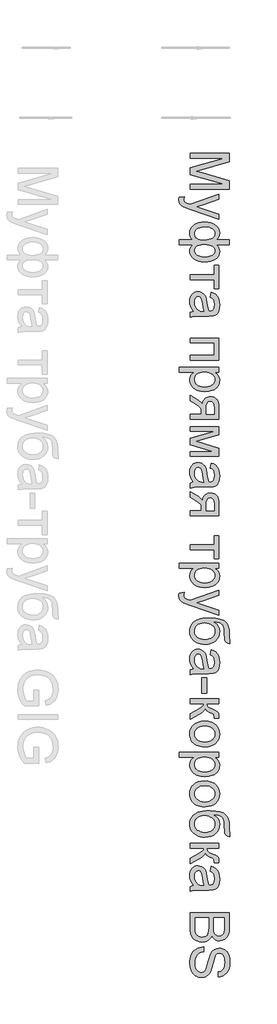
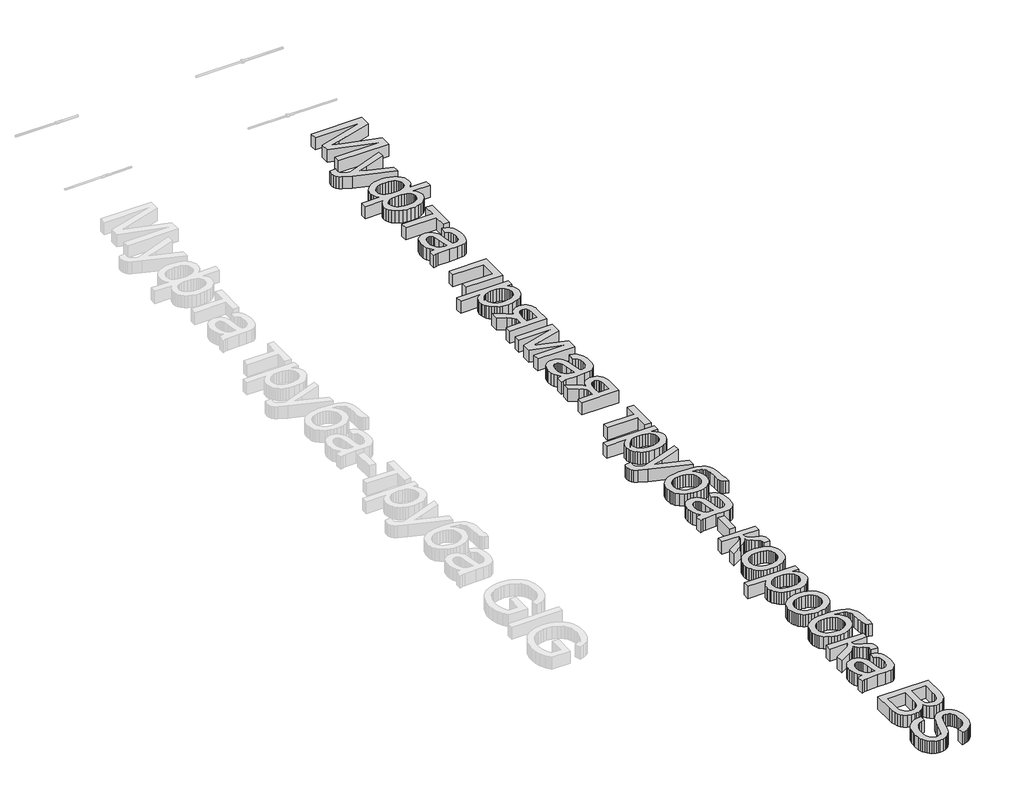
# One storey, part 13 of 33: 1 proxy.
"""IFC4 building model written with IfcOpenShell, lengths in millimetres."""

from ifc_helpers import new_model, si_unit, origin, origin_with_axes, place, context, project, spatial, polyline, outline, extrude, element, save

model = new_model("IFC4")

# Units and contexts
model_context = context("Model", 3, world=origin())
ifc_project = project(units=[si_unit("LENGTHUNIT", "METRE", prefix="MILLI")], contexts=[model_context])

# Site, building, storey
site = spatial("IfcSite", under=ifc_project)
building = spatial("IfcBuilding", under=site)
storey = spatial("IfcBuildingStorey", under=building, Name="Уровень 1", Elevation=0.0)

# Proxy
placement = place(None, origin())
element("IfcBuildingElementProxy", 1, Name="Надпись на модели 1", ObjectType="Надпись на модели 1", at=placement, inside=storey, context=model_context, shape_type="SweptSolid", body=[
    extrude(outline(polyline([(7824.4625724, -566.9517531), (8415.2318032, -566.9517531), (8415.2318032, -694.0190607), (7998.8375724, -814.8844454), (7911.8664186, -839.2594454), (8006.0491109, -865.6536761), (8415.2318032, -984.49983), (8415.2318032, -1111.5671377), (7824.4625724, -1111.5671377), (7824.4625724, -1037.7209838), (8341.3856493, -1037.7209838), (7824.4625724, -889.3075223), (7824.4625724, -789.2113684), (8341.3856493, -640.7979069), (7824.4625724, -640.7979069), (7824.4625724, -566.9517531)])), origin_with_axes(), (0.0, 0.0, 1.0), 150.0),
    extrude(outline(polyline([(7658.3087262, -1231.5671377), (7729.4144955, -1222.3363684), (7722.9241109, -1259.8363684), (7724.9613705, -1279.5599261), (7731.0731493, -1294.8844454), (7740.8267551, -1306.8195415), (7753.7894955, -1316.37483), (7808.1644955, -1336.5671377), (7826.0491109, -1342.3363684), (8258.3087262, -1185.4132915), (8258.3087262, -1263.2979069), (8017.4433416, -1346.5190607), (7921.0971878, -1375.5094454), (8006.1933416, -1404.49983), (8258.3087262, -1490.0286761), (8258.3087262, -1567.3363684), (7814.077957, -1416.3267531), (7717.7318032, -1377.0959838), (7686.9745916, -1357.0118492), (7665.6644955, -1334.2594454), (7653.2245916, -1307.8291569), (7649.077957, -1276.7113684), (7651.3856493, -1255.3291569), (7658.3087262, -1231.5671377)])), origin_with_axes(), (0.0, 0.0, 1.0), 150.0),
    extrude(outline(polyline([(8415.2318032, -1877.7209838), (8415.2318032, -1951.5671377), (8216.6260339, -1951.5671377), (8239.0358897, -1973.9769934), (8254.9193032, -1998.5142531), (8264.3844474, -2025.0707434), (8267.5394955, -2053.5382915), (8263.5280772, -2087.725491), (8251.4938224, -2118.171705), (8231.4367311, -2144.8769333), (8203.3568032, -2167.8411761), (8169.1921397, -2186.2982074), (8130.8808416, -2199.4818011), (8088.4229089, -2207.3919574), (8041.8183416, -2210.0286761), (7993.4875123, -2207.1891329), (7950.0334859, -2198.6705031), (7911.4562623, -2184.4727867), (7877.7558416, -2164.5959838), (7850.4015748, -2140.5004309), (7830.8628128, -2113.6464646), (7819.1395556, -2084.0340848), (7815.2318032, -2051.6632915), (7817.0346878, -2029.2714646), (7822.4433416, -2006.5190607), (7835.8928609, -1981.3147338), (7861.8183416, -1951.5671377), (7658.3087262, -1951.5671377), (7658.3087262, -1877.7209838), (7861.8183416, -1877.7209838), (7841.4818032, -1855.2570415), (7826.9144955, -1830.5575223), (7818.1524762, -1803.6945415), (7815.2318032, -1774.7402146), (7818.9637743, -1742.7570415), (7830.1596878, -1712.8652146), (7848.8195436, -1685.0647338), (7874.9433416, -1659.3555992), (7908.0172599, -1637.7750704), (7947.5274762, -1622.3604069), (7993.4739907, -1613.1116088), (8045.8568032, -1610.0286761), (8091.0461061, -1612.8186401), (8132.4313224, -1621.1885319), (8170.0124522, -1635.1383516), (8203.7894955, -1654.6680992), (8231.6801205, -1678.9123901), (8251.6019955, -1707.0058396), (8263.5551205, -1738.9484478), (8267.5394955, -1774.7402146), (8264.3844474, -1804.8303588), (8254.9193032, -1831.9277146), (8239.0358897, -1856.1765127), (8216.6260339, -1877.7209838), (8415.2318032, -1877.7209838)]), holes=[polyline([(8040.0875724, -1951.1344454), (7999.0403969, -1952.6714045), (7965.3219474, -1957.2822819), (7938.9322238, -1964.9670776), (7919.8712262, -1975.7257915), (7906.399171, -1988.8012122), (7896.7762743, -2003.4361281), (7891.0025363, -2019.6305391), (7889.077957, -2037.3844454), (7891.4442431, -2057.1125103), (7898.5431012, -2075.3351665), (7910.3745315, -2092.0524141), (7926.9385339, -2107.2642531), (7948.4875123, -2119.9159958), (7975.2738705, -2128.952955), (8007.2976085, -2134.3751305), (8044.5587262, -2136.1825223), (8079.8051205, -2134.514854), (8110.2558416, -2129.5118492), (8135.9108897, -2121.1735079), (8156.7702647, -2109.49983), (8172.9241109, -2095.2119694), (8184.4625724, -2079.03108), (8191.3856493, -2060.9571617), (8193.6933416, -2040.9902146), (8191.2909979, -2020.0181593), (8184.0839666, -2001.8135319), (8172.0722479, -1986.3763324), (8155.2558416, -1973.7065607), (8133.6437623, -1963.8312603), (8107.2450243, -1956.7774742), (8076.0596277, -1952.5452026), (8040.0875724, -1951.1344454)]), polyline([(8047.4433416, -1683.87483), (8008.2756734, -1685.7227867), (7975.0034378, -1691.2666569), (7947.6266349, -1700.5064406), (7926.1452647, -1713.4421377), (7909.9283176, -1729.1182194), (7898.3447839, -1746.5791569), (7891.3946637, -1765.8249502), (7889.077957, -1786.8555992), (7891.3811421, -1808.3414766), (7898.2906974, -1826.9337242), (7909.8066229, -1842.632342), (7925.9289186, -1855.43733), (7946.6575844, -1865.3757314), (7971.9926205, -1872.4745896), (8001.9340267, -1876.7339045), (8036.4818032, -1878.1536761), (8073.3282575, -1876.6617891), (8105.2618512, -1872.1861281), (8132.2825844, -1864.726693), (8154.390457, -1854.2834838), (8171.585469, -1840.8294574), (8183.8676205, -1824.3375704), (8191.2369113, -1804.8078228), (8193.6933416, -1782.2402146), (8191.2955051, -1761.4709838), (8184.1019955, -1742.7209838), (8172.1128128, -1725.9902146), (8155.327957, -1711.2786761), (8134.1981493, -1699.2894934), (8109.1741109, -1690.7257915), (8080.2558416, -1685.5875704), (8047.4433416, -1683.87483)])]), origin_with_axes(), (0.0, 0.0, 1.0), 150.0),
    extrude(outline(polyline([(8258.3087262, -2265.4132915), (8258.3087262, -2616.1825223), (8184.4625724, -2616.1825223), (8184.4625724, -2477.7209838), (7824.4625724, -2477.7209838), (7824.4625724, -2403.87483), (8184.4625724, -2403.87483), (8184.4625724, -2265.4132915), (8258.3087262, -2265.4132915)])), origin_with_axes(), (0.0, 0.0, 1.0), 150.0),
    extrude(outline(polyline([(7879.8471878, -2957.7209838), (7849.5947839, -2922.4385319), (7829.7991109, -2886.1104069), (7818.8736301, -2847.9072819), (7815.2318032, -2806.99983), (7817.422308, -2774.1197218), (7823.9938224, -2745.2870896), (7834.9463464, -2720.5019333), (7850.2798801, -2699.7642531), (7869.0208657, -2683.3895535), (7890.1957455, -2671.6933396), (7913.8045195, -2664.6756112), (7939.8471878, -2662.3363684), (7970.4601686, -2665.8700223), (7998.2606493, -2676.4709838), (8022.0587262, -2692.8231473), (8040.6644955, -2713.6104069), (8054.7269955, -2738.0394934), (8064.8952647, -2765.3171377), (8076.0010339, -2829.2113684), (8087.6837262, -2904.7161761), (8101.3856493, -2957.2882915), (8117.827957, -2957.7209838), (8150.7846878, -2952.6368492), (8162.9902166, -2946.2816809), (8172.3471878, -2937.3844454), (8181.6861301, -2922.0058396), (8188.3568032, -2903.2738684), (8193.6933416, -2855.74983), (8190.1416589, -2811.7594454), (8179.4866109, -2781.0382915), (8159.781082, -2760.0887723), (8129.077957, -2745.4132915), (8138.3087262, -2671.5671377), (8178.6933416, -2684.3856473), (8210.4241109, -2703.5142531), (8234.6909378, -2730.7378107), (8252.6837262, -2767.8411761), (8263.8255532, -2813.2197819), (8267.5394955, -2865.2690607), (8264.2582455, -2915.1909357), (8254.4144955, -2954.7642531), (8239.6128128, -2984.6019934), (8221.4577647, -3005.3171377), (8199.0118512, -3019.0551184), (8171.3375724, -3027.9613684), (8106.7221878, -3031.5671377), (8014.8471878, -3031.5671377), (7886.5539186, -3035.3171377), (7854.8411782, -3040.8700223), (7824.4625724, -3050.0286761), (7824.4625724, -2976.1825223), (7850.1356493, -2964.3555992), (7879.8471878, -2957.7209838)]), holes=[polyline([(8027.5394955, -2957.7209838), (8015.2438224, -2908.1055992), (8004.8952647, -2838.5863684), (7992.9241109, -2775.0527146), (7984.7390147, -2758.5202627), (7973.452957, -2746.2786761), (7959.9313224, -2738.7065607), (7945.0394955, -2736.1825223), (7923.0803609, -2741.6813204), (7905.0875724, -2758.1777146), (7893.0803609, -2785.3111281), (7889.077957, -2822.7209838), (7893.4950243, -2862.3844454), (7906.7462262, -2897.4325223), (7926.2714666, -2925.8459838), (7949.5106493, -2945.6055992), (7973.452957, -2954.3676184), (8006.6260339, -2957.2882915), (8027.5394955, -2957.7209838)])]), origin_with_axes(), (0.0, 0.0, 1.0), 150.0),
    extrude(outline(polyline([(8258.3087262, -3363.87483), (8258.3087262, -3696.1825223), (7824.4625724, -3696.1825223), (7824.4625724, -3622.3363684), (8184.4625724, -3622.3363684), (8184.4625724, -3437.7209838), (7824.4625724, -3437.7209838), (7824.4625724, -3363.87483), (8258.3087262, -3363.87483)])), origin_with_axes(), (0.0, 0.0, 1.0), 150.0),
    extrude(outline(polyline([(7658.3087262, -3806.9517531), (8258.3087262, -3806.9517531), (8258.3087262, -3880.7979069), (8185.9048801, -3880.7979069), (8221.6200243, -3904.8844454), (8247.1308416, -3931.8555992), (8262.437332, -3963.2979069), (8267.5394955, -4000.7979069), (8265.7546397, -4026.5521136), (8260.4000724, -4050.7378107), (8251.4757936, -4073.3549982), (8238.9818032, -4094.4036761), (8223.2426205, -4113.4241088), (8204.5827647, -4129.9565607), (8183.0022359, -4144.0010319), (8158.5010339, -4155.5575223), (8104.0899762, -4171.0262723), (8044.702957, -4176.1825223), (7981.5479089, -4170.359205), (7952.4718873, -4163.0800583), (7925.0635339, -4152.8892531), (7900.0394955, -4139.9265127), (7878.1164186, -4124.3315607), (7859.2943032, -4106.1043973), (7843.5731493, -4085.2450223), (7831.1738104, -4062.7765728), (7822.3171397, -4039.7221857), (7817.0031373, -4016.0818612), (7815.2318032, -3991.8555992), (7819.9733897, -3957.9072819), (7834.1981493, -3927.6007915), (7855.6705051, -3901.6572819), (7882.1548801, -3880.7979069), (7658.3087262, -3880.7979069), (7658.3087262, -3806.9517531)]), holes=[polyline([(8037.9241109, -3880.7979069), (8002.3351686, -3882.7946016), (7971.7221878, -3888.7846857), (7946.0851686, -3898.7681593), (7925.4241109, -3912.7450223), (7909.5226686, -3929.570443), (7898.1644955, -3948.0995896), (7891.3495916, -3968.3324622), (7889.077957, -3990.2690607), (7891.4307214, -4012.5211641), (7898.4890147, -4033.1236281), (7910.2528368, -4052.0764526), (7926.7221878, -4069.3796377), (7948.1314426, -4083.7982074), (7974.7149762, -4094.0971857), (8006.4727887, -4100.2765728), (8043.4048801, -4102.3363684), (8078.687332, -4100.3261521), (8109.2462262, -4094.2955031), (8135.0815628, -4084.2444213), (8156.1933416, -4070.1729069), (8172.5995916, -4053.3069213), (8184.3183416, -4034.8724261), (8191.3495916, -4014.8694213), (8193.6933416, -3993.2979069), (8191.2008537, -3971.7940006), (8183.7233897, -3951.5611281), (8171.2609498, -3932.5992891), (8153.8135339, -3914.9084838), (8131.6155171, -3899.9851064), (8104.9012743, -3889.3255511), (8073.6708056, -3882.929818), (8037.9241109, -3880.7979069)])]), origin_with_axes(), (0.0, 0.0, 1.0), 150.0),
    extrude(outline(polyline([(8258.3087262, -4591.5671377), (7824.4625724, -4591.5671377), (7824.4625724, -4517.7209838), (7990.6164186, -4517.7209838), (7990.6164186, -4477.4805992), (7988.2726686, -4445.3892531), (7981.2414186, -4422.6729069), (7960.796707, -4400.7858877), (7918.2125724, -4371.1825223), (7824.4625724, -4312.3363684), (7824.4625724, -4226.9517531), (7943.0202647, -4301.0863684), (7985.5683416, -4333.8267531), (7997.9721878, -4349.2233877), (8004.4625724, -4363.9709838), (8010.4571637, -4336.8555992), (8019.9313224, -4313.4902146), (8032.8850484, -4293.87483), (8049.3183416, -4278.0094454), (8068.1765147, -4265.7678588), (8088.4048801, -4257.0238684), (8110.0034378, -4251.7774742), (8132.9721878, -4250.0286761), (8159.5647359, -4252.4174982), (8183.5250724, -4259.5839646), (8204.8531974, -4271.5280752), (8223.5491109, -4288.24983), (8238.7564426, -4309.4968252), (8249.6188224, -4335.0166569), (8256.1362503, -4364.8093252), (8258.3087262, -4398.87483), (8258.3087262, -4591.5671377)]), holes=[polyline([(8184.4625724, -4517.7209838), (8184.4625724, -4420.3652146), (8180.1897359, -4370.0827627), (8174.8486902, -4353.0950824), (8167.3712262, -4341.5430992), (8148.8195436, -4328.2918973), (8127.3471878, -4323.87483), (8112.1984498, -4325.5019333), (8099.2041589, -4330.3832434), (8088.3643152, -4338.5187603), (8079.6789186, -4349.9084838), (8073.0217671, -4365.4358276), (8068.2666589, -4385.984205), (8064.4625724, -4442.1440607), (8064.4625724, -4517.7209838), (8184.4625724, -4517.7209838)])]), origin_with_axes(), (0.0, 0.0, 1.0), 150.0),
    extrude(outline(polyline([(8258.3087262, -4702.3363684), (8258.3087262, -4829.4036761), (7911.0010339, -4927.3363684), (8258.3087262, -5032.9132915), (8258.3087262, -5154.6440607), (7824.4625724, -5154.6440607), (7824.4625724, -5080.7979069), (8173.7894955, -5080.7979069), (7824.4625724, -4974.6440607), (7824.4625724, -4877.7209838), (8190.5202647, -4776.1825223), (7824.4625724, -4776.1825223), (7824.4625724, -4702.3363684), (8258.3087262, -4702.3363684)])), origin_with_axes(), (0.0, 0.0, 1.0), 150.0),
    extrude(outline(polyline([(7879.8471878, -5542.3363684), (7849.5947839, -5507.0539165), (7829.7991109, -5470.7257915), (7818.8736301, -5432.5226665), (7815.2318032, -5391.6152146), (7817.422308, -5358.7351064), (7823.9938224, -5329.9024742), (7834.9463464, -5305.117318), (7850.2798801, -5284.3796377), (7869.0208657, -5268.0049381), (7890.1957455, -5256.3087242), (7913.8045195, -5249.2909958), (7939.8471878, -5246.9517531), (7970.4601686, -5250.4854069), (7998.2606493, -5261.0863684), (8022.0587262, -5277.4385319), (8040.6644955, -5298.2257915), (8054.7269955, -5322.6548781), (8064.8952647, -5349.9325223), (8076.0010339, -5413.8267531), (8087.6837262, -5489.3315607), (8101.3856493, -5541.9036761), (8117.827957, -5542.3363684), (8150.7846878, -5537.2522338), (8162.9902166, -5530.8970656), (8172.3471878, -5521.99983), (8181.6861301, -5506.6212242), (8188.3568032, -5487.8892531), (8193.6933416, -5440.3652146), (8190.1416589, -5396.37483), (8179.4866109, -5365.6536761), (8159.781082, -5344.7041569), (8129.077957, -5330.0286761), (8138.3087262, -5256.1825223), (8178.6933416, -5269.0010319), (8210.4241109, -5288.1296377), (8234.6909378, -5315.3531954), (8252.6837262, -5352.4565607), (8263.8255532, -5397.8351665), (8267.5394955, -5449.8844454), (8264.2582455, -5499.8063204), (8254.4144955, -5539.3796377), (8239.6128128, -5569.2173781), (8221.4577647, -5589.9325223), (8199.0118512, -5603.6705031), (8171.3375724, -5612.5767531), (8106.7221878, -5616.1825223), (8014.8471878, -5616.1825223), (7886.5539186, -5619.9325223), (7854.8411782, -5625.4854069), (7824.4625724, -5634.6440607), (7824.4625724, -5560.7979069), (7850.1356493, -5548.9709838), (7879.8471878, -5542.3363684)]), holes=[polyline([(8027.5394955, -5542.3363684), (8015.2438224, -5492.7209838), (8004.8952647, -5423.2017531), (7992.9241109, -5359.6680992), (7984.7390147, -5343.1356473), (7973.452957, -5330.8940607), (7959.9313224, -5323.3219454), (7945.0394955, -5320.7979069), (7923.0803609, -5326.296705), (7905.0875724, -5342.7930992), (7893.0803609, -5369.9265127), (7889.077957, -5407.3363684), (7893.4950243, -5446.99983), (7906.7462262, -5482.0479069), (7926.2714666, -5510.4613684), (7949.5106493, -5530.2209838), (7973.452957, -5538.9830031), (8006.6260339, -5541.9036761), (8027.5394955, -5542.3363684)])]), origin_with_axes(), (0.0, 0.0, 1.0), 150.0),
    extrude(outline(polyline([(8258.3087262, -6050.0286761), (7824.4625724, -6050.0286761), (7824.4625724, -5976.1825223), (7990.6164186, -5976.1825223), (7990.6164186, -5935.9421377), (7988.2726686, -5903.8507915), (7981.2414186, -5881.1344454), (7960.796707, -5859.2474261), (7918.2125724, -5829.6440607), (7824.4625724, -5770.7979069), (7824.4625724, -5685.4132915), (7943.0202647, -5759.5479069), (7985.5683416, -5792.2882915), (7997.9721878, -5807.6849261), (8004.4625724, -5822.4325223), (8010.4571637, -5795.3171377), (8019.9313224, -5771.9517531), (8032.8850484, -5752.3363684), (8049.3183416, -5736.4709838), (8068.1765147, -5724.2293973), (8088.4048801, -5715.4854069), (8110.0034378, -5710.2390127), (8132.9721878, -5708.4902146), (8159.5647359, -5710.8790367), (8183.5250724, -5718.0455031), (8204.8531974, -5729.9896136), (8223.5491109, -5746.7113684), (8238.7564426, -5767.9583636), (8249.6188224, -5793.4781954), (8256.1362503, -5823.2708636), (8258.3087262, -5857.3363684), (8258.3087262, -6050.0286761)]), holes=[polyline([(8184.4625724, -5976.1825223), (8184.4625724, -5878.8267531), (8180.1897359, -5828.5443011), (8174.8486902, -5811.5566208), (8167.3712262, -5800.0046377), (8148.8195436, -5786.7534357), (8127.3471878, -5782.3363684), (8112.1984498, -5783.9634718), (8099.2041589, -5788.8447819), (8088.3643152, -5796.9802987), (8079.6789186, -5808.3700223), (8073.0217671, -5823.897366), (8068.2666589, -5844.4457434), (8064.4625724, -5900.6055992), (8064.4625724, -5976.1825223), (8184.4625724, -5976.1825223)])]), origin_with_axes(), (0.0, 0.0, 1.0), 150.0),
    extrude(outline(polyline([(8258.3087262, -6354.6440607), (8258.3087262, -6705.4132915), (8184.4625724, -6705.4132915), (8184.4625724, -6566.9517531), (7824.4625724, -6566.9517531), (7824.4625724, -6493.1055992), (8184.4625724, -6493.1055992), (8184.4625724, -6354.6440607), (8258.3087262, -6354.6440607)])), origin_with_axes(), (0.0, 0.0, 1.0), 150.0),
    extrude(outline(polyline([(7658.3087262, -6770.0286761), (8258.3087262, -6770.0286761), (8258.3087262, -6843.87483), (8185.9048801, -6843.87483), (8221.6200243, -6867.9613684), (8247.1308416, -6894.9325223), (8262.437332, -6926.37483), (8267.5394955, -6963.87483), (8265.7546397, -6989.6290367), (8260.4000724, -7013.8147338), (8251.4757936, -7036.4319213), (8238.9818032, -7057.4805992), (8223.2426205, -7076.5010319), (8204.5827647, -7093.0334838), (8183.0022359, -7107.077955), (8158.5010339, -7118.6344454), (8104.0899762, -7134.1031954), (8044.702957, -7139.2594454), (7981.5479089, -7133.4361281), (7952.4718873, -7126.1569814), (7925.0635339, -7115.9661761), (7900.0394955, -7103.0034357), (7878.1164186, -7087.4084838), (7859.2943032, -7069.1813204), (7843.5731493, -7048.3219454), (7831.1738104, -7025.8534958), (7822.3171397, -7002.7991088), (7817.0031373, -6979.1587843), (7815.2318032, -6954.9325223), (7819.9733897, -6920.984205), (7834.1981493, -6890.6777146), (7855.6705051, -6864.734205), (7882.1548801, -6843.87483), (7658.3087262, -6843.87483), (7658.3087262, -6770.0286761)]), holes=[polyline([(8037.9241109, -6843.87483), (8002.3351686, -6845.8715247), (7971.7221878, -6851.8616088), (7946.0851686, -6861.8450824), (7925.4241109, -6875.8219454), (7909.5226686, -6892.647366), (7898.1644955, -6911.1765127), (7891.3495916, -6931.4093853), (7889.077957, -6953.3459838), (7891.4307214, -6975.5980872), (7898.4890147, -6996.2005511), (7910.2528368, -7015.1533756), (7926.7221878, -7032.4565607), (7948.1314426, -7046.8751305), (7974.7149762, -7057.1741088), (8006.4727887, -7063.3534958), (8043.4048801, -7065.4132915), (8078.687332, -7063.4030752), (8109.2462262, -7057.3724261), (8135.0815628, -7047.3213444), (8156.1933416, -7033.24983), (8172.5995916, -7016.3838444), (8184.3183416, -6997.9493492), (8191.3495916, -6977.9463444), (8193.6933416, -6956.37483), (8191.2008537, -6934.8709237), (8183.7233897, -6914.6380511), (8171.2609498, -6895.6762122), (8153.8135339, -6877.9854069), (8131.6155171, -6863.0620295), (8104.9012743, -6852.4024742), (8073.6708056, -6846.006741), (8037.9241109, -6843.87483)])]), origin_with_axes(), (0.0, 0.0, 1.0), 150.0),
    extrude(outline(polyline([(7658.3087262, -7222.3363684), (7729.4144955, -7213.1055992), (7722.9241109, -7250.6055992), (7724.9613705, -7270.3291569), (7731.0731493, -7285.6536761), (7740.8267551, -7297.5887723), (7753.7894955, -7307.1440607), (7808.1644955, -7327.3363684), (7826.0491109, -7333.1055992), (8258.3087262, -7176.1825223), (8258.3087262, -7254.0671377), (8017.4433416, -7337.2882915), (7921.0971878, -7366.2786761), (8006.1933416, -7395.2690607), (8258.3087262, -7480.7979069), (8258.3087262, -7558.1055992), (7814.077957, -7407.0959838), (7717.7318032, -7367.8652146), (7686.9745916, -7347.78108), (7665.6644955, -7325.0286761), (7653.2245916, -7298.5983877), (7649.077957, -7267.4805992), (7651.3856493, -7246.0983877), (7658.3087262, -7222.3363684)])), origin_with_axes(), (0.0, 0.0, 1.0), 150.0),
    extrude(outline(polyline([(8424.4625724, -7923.87483), (8424.4625724, -7988.4902146), (8389.3604089, -7981.4950223), (8366.8423801, -7969.4517531), (8353.5190628, -7952.7570415), (8346.0010339, -7931.8075223), (8342.5394955, -7897.6608877), (8341.3856493, -7841.37483), (8337.1308416, -7766.2846857), (8331.812332, -7739.3811401), (8324.3664186, -7719.5719454), (8314.5767551, -7704.4547579), (8302.2269955, -7691.6272338), (8287.3171397, -7681.0893732), (8269.8471878, -7672.8411761), (8226.9745916, -7661.7894934), (8173.3568032, -7657.0479069), (8214.6068032, -7686.7414165), (8244.0298801, -7721.0142531), (8261.6620916, -7759.9024742), (8267.5394955, -7803.4421377), (8263.8030171, -7843.6735079), (8252.593582, -7880.28108), (8233.9111902, -7913.264854), (8207.7558416, -7942.62483), (8175.227296, -7966.7293973), (8137.4253128, -7983.9469454), (8094.3498921, -7994.2774742), (8046.0010339, -7997.7209838), (8009.0148561, -7996.0127506), (7975.5082455, -7990.8880511), (7945.4812022, -7982.3468853), (7918.9337262, -7970.3892531), (7874.9613705, -7940.515455), (7842.2750724, -7905.5575223), (7830.4436421, -7885.1128107), (7821.9926205, -7861.2786761), (7816.9220075, -7834.0551184), (7815.2318032, -7803.4421377), (7817.4087863, -7768.0289766), (7823.9397359, -7736.7894934), (7834.8246517, -7709.7236881), (7850.0635339, -7686.8315607), (7868.6963464, -7667.2387122), (7889.7630532, -7650.0707434), (7913.2636541, -7635.3276545), (7939.1981493, -7623.0094454), (7971.3841469, -7613.2918973), (8013.6392551, -7606.3507915), (8065.9634738, -7602.1861281), (8128.3568032, -7600.7979069), (8206.1107094, -7604.3000103), (8270.0455051, -7614.8063204), (8320.1611902, -7632.3168372), (8340.0368663, -7643.6986731), (8356.4577647, -7656.8315607), (8382.1714065, -7688.6119093), (8400.5382936, -7727.9193011), (8411.5584258, -7774.7537362), (8415.2318032, -7829.1152146), (8416.890457, -7911.3267531), (8419.6128128, -7919.3676184), (8424.4625724, -7923.87483)]), holes=[polyline([(8048.3087262, -7923.87483), (8078.8090267, -7921.8736281), (8106.4156974, -7915.8700223), (8131.1287383, -7905.8640127), (8152.9481493, -7891.8555992), (8170.774171, -7874.2053588), (8183.5070436, -7853.2738684), (8191.1467671, -7829.0611281), (8193.6933416, -7801.5671377), (8191.0025363, -7772.874229), (8182.9301205, -7747.6608877), (8169.476094, -7725.9271136), (8150.640457, -7707.6729069), (8127.3066229, -7693.2227867), (8100.3580051, -7682.9012723), (8069.7946037, -7676.7083636), (8035.6164186, -7674.6440607), (8002.1503729, -7676.9247098), (7972.8580051, -7683.7666569), (7947.7393152, -7695.1699021), (7926.7943032, -7711.1344454), (7910.2934017, -7730.4433396), (7898.5070436, -7751.8796377), (7891.4352287, -7775.4433396), (7889.077957, -7801.1344454), (7891.80482, -7827.1771136), (7899.9854089, -7850.6416569), (7913.6197238, -7871.5280752), (7932.7077647, -7889.8363684), (7956.2940027, -7904.7281954), (7983.4229089, -7915.3652146), (8014.0944835, -7921.7474261), (8048.3087262, -7923.87483)])]), origin_with_axes(), (0.0, 0.0, 1.0), 150.0),
    extrude(outline(polyline([(7879.8471878, -8366.9517531), (7849.5947839, -8331.6693011), (7829.7991109, -8295.3411761), (7818.8736301, -8257.1380511), (7815.2318032, -8216.2305992), (7817.422308, -8183.350491), (7823.9938224, -8154.5178588), (7834.9463464, -8129.7327026), (7850.2798801, -8108.9950223), (7869.0208657, -8092.6203228), (7890.1957455, -8080.9241088), (7913.8045195, -8073.9063805), (7939.8471878, -8071.5671377), (7970.4601686, -8075.1007915), (7998.2606493, -8085.7017531), (8022.0587262, -8102.0539165), (8040.6644955, -8122.8411761), (8054.7269955, -8147.2702627), (8064.8952647, -8174.5479069), (8076.0010339, -8238.4421377), (8087.6837262, -8313.9469454), (8101.3856493, -8366.5190607), (8117.827957, -8366.9517531), (8150.7846878, -8361.8676184), (8162.9902166, -8355.5124502), (8172.3471878, -8346.6152146), (8181.6861301, -8331.2366088), (8188.3568032, -8312.5046377), (8193.6933416, -8264.9805992), (8190.1416589, -8220.9902146), (8179.4866109, -8190.2690607), (8159.781082, -8169.3195415), (8129.077957, -8154.6440607), (8138.3087262, -8080.7979069), (8178.6933416, -8093.6164165), (8210.4241109, -8112.7450223), (8234.6909378, -8139.96858), (8252.6837262, -8177.0719454), (8263.8255532, -8222.4505511), (8267.5394955, -8274.49983), (8264.2582455, -8324.421705), (8254.4144955, -8363.9950223), (8239.6128128, -8393.8327627), (8221.4577647, -8414.5479069), (8199.0118512, -8428.2858877), (8171.3375724, -8437.1921377), (8106.7221878, -8440.7979069), (8014.8471878, -8440.7979069), (7886.5539186, -8444.5479069), (7854.8411782, -8450.1007915), (7824.4625724, -8459.2594454), (7824.4625724, -8385.4132915), (7850.1356493, -8373.5863684), (7879.8471878, -8366.9517531)]), holes=[polyline([(8027.5394955, -8366.9517531), (8015.2438224, -8317.3363684), (8004.8952647, -8247.8171377), (7992.9241109, -8184.2834838), (7984.7390147, -8167.7510319), (7973.452957, -8155.5094454), (7959.9313224, -8147.93733), (7945.0394955, -8145.4132915), (7923.0803609, -8150.9120896), (7905.0875724, -8167.4084838), (7893.0803609, -8194.5418973), (7889.077957, -8231.9517531), (7893.4950243, -8271.6152146), (7906.7462262, -8306.6632915), (7926.2714666, -8335.0767531), (7949.5106493, -8354.8363684), (7973.452957, -8363.5983877), (8006.6260339, -8366.5190607), (8027.5394955, -8366.9517531)])]), origin_with_axes(), (0.0, 0.0, 1.0), 150.0),
    extrude(outline(polyline([(7999.8471878, -8505.4132915), (8073.6933416, -8505.4132915), (8073.6933416, -8736.1825223), (7999.8471878, -8736.1825223), (7999.8471878, -8505.4132915)])), origin_with_axes(), (0.0, 0.0, 1.0), 150.0),
    extrude(outline(polyline([(8258.3087262, -8819.2594454), (8258.3087262, -8893.1055992), (8073.6933416, -8893.1055992), (8077.0106493, -8923.1416569), (8086.9625724, -8942.5767531), (8112.9241109, -8959.7762723), (8164.2702647, -8983.1055992), (8206.2594474, -9001.9096857), (8230.9769955, -9016.7834838), (8244.4445436, -9030.6656954), (8252.6837262, -9046.4950223), (8256.9024762, -9068.4000704), (8258.3087262, -9100.5094454), (8258.3087262, -9114.6440607), (8184.0298801, -9114.6440607), (8184.4625724, -9094.7402146), (8182.515457, -9071.6632915), (8176.6741109, -9058.6825223), (8160.4120916, -9048.1536761), (8128.0683416, -9033.2979069), (8095.6705051, -9017.702955), (8075.4962262, -9003.5142531), (8062.0286782, -8986.3327627), (8049.7510339, -8961.7594454), (8039.3574041, -8985.1608877), (8021.0130532, -9008.3459838), (7994.7179811, -9031.3147338), (7960.4721878, -9054.0671377), (7824.4625724, -9133.1055992), (7824.4625724, -9049.1632915), (7957.5875724, -8971.7113684), (7993.0142551, -8950.7979069), (8013.9096878, -8932.7690607), (8024.1320436, -8914.5599261), (8027.5394955, -8893.1055992), (7824.4625724, -8893.1055992), (7824.4625724, -8819.2594454), (8258.3087262, -8819.2594454)])), origin_with_axes(), (0.0, 0.0, 1.0), 150.0),
    extrude(outline(polyline([(8041.3856493, -9160.7979069), (8097.5725484, -9164.7912963), (8145.9890147, -9176.7714646), (8186.6350484, -9196.7384117), (8219.5106493, -9224.6921377), (8240.5232695, -9252.8351665), (8255.5322839, -9283.8988684), (8264.5376926, -9317.8832434), (8267.5394955, -9354.7882915), (8263.8841469, -9395.5289766), (8252.9181012, -9432.3664165), (8234.6413585, -9465.3006112), (8209.0539186, -9494.3315607), (8177.0211662, -9518.0259718), (8139.4084859, -9534.9505511), (8096.2158777, -9545.1052987), (8047.4433416, -9548.4902146), (8007.9150964, -9546.9938204), (7972.8399762, -9542.5046377), (7942.2179811, -9535.0226665), (7916.0491109, -9524.5479069), (7893.445445, -9511.211068), (7873.5190628, -9495.1428588), (7856.2699642, -9476.3432795), (7841.6981493, -9454.81233), (7830.1191229, -9431.3883516), (7821.8483897, -9406.9096857), (7816.8859498, -9381.3763324), (7815.2318032, -9354.7882915), (7818.8736301, -9313.4526545), (7829.7991109, -9276.2726665), (7848.0082455, -9243.2483276), (7873.5010339, -9214.3796377), (7905.8447839, -9190.9376305), (7944.6068032, -9174.1933396), (7989.7870916, -9164.1467651), (8041.3856493, -9160.7979069)]), holes=[polyline([(8041.5298801, -9234.6440607), (8005.71107, -9236.780479), (7974.6969474, -9243.1897338), (7948.4875123, -9253.8718252), (7927.0827647, -9268.8267531), (7910.4556613, -9287.0178588), (7898.5791589, -9307.4084838), (7891.4532575, -9329.9986281), (7889.077957, -9354.7882915), (7891.4667791, -9379.4517531), (7898.6332455, -9401.9517531), (7910.5773561, -9422.2882915), (7927.2991109, -9440.4613684), (7948.9156974, -9455.4162963), (7975.5443032, -9466.0983877), (8007.1849282, -9472.5076425), (8043.8375724, -9474.6440607), (8078.5205652, -9472.4941208), (8108.7233897, -9466.0443011), (8134.446046, -9455.2946016), (8155.6885339, -9440.2450223), (8172.3156373, -9422.0043372), (8184.1921397, -9401.6813204), (8191.3180412, -9379.2759718), (8193.6933416, -9354.7882915), (8191.3270556, -9329.9986281), (8184.2281974, -9307.4084838), (8172.3967671, -9287.0178588), (8155.8327647, -9268.8267531), (8134.4911181, -9253.8718252), (8108.3267551, -9243.1897338), (8077.3396758, -9236.780479), (8041.5298801, -9234.6440607)])]), origin_with_axes(), (0.0, 0.0, 1.0), 150.0),
    extrude(outline(polyline([(7658.3087262, -9631.5671377), (8258.3087262, -9631.5671377), (8258.3087262, -9705.4132915), (8185.9048801, -9705.4132915), (8221.6200243, -9729.49983), (8247.1308416, -9756.4709838), (8262.437332, -9787.9132915), (8267.5394955, -9825.4132915), (8265.7546397, -9851.1674982), (8260.4000724, -9875.3531954), (8251.4757936, -9897.9703829), (8238.9818032, -9919.0190607), (8223.2426205, -9938.0394934), (8204.5827647, -9954.5719454), (8183.0022359, -9968.6164165), (8158.5010339, -9980.1729069), (8104.0899762, -9995.6416569), (8044.702957, -10000.7979069), (7981.5479089, -9994.9745896), (7952.4718873, -9987.695443), (7925.0635339, -9977.5046377), (7900.0394955, -9964.5418973), (7878.1164186, -9948.9469454), (7859.2943032, -9930.7197819), (7843.5731493, -9909.8604069), (7831.1738104, -9887.3919574), (7822.3171397, -9864.3375704), (7817.0031373, -9840.6972458), (7815.2318032, -9816.4709838), (7819.9733897, -9782.5226665), (7834.1981493, -9752.2161761), (7855.6705051, -9726.2726665), (7882.1548801, -9705.4132915), (7658.3087262, -9705.4132915), (7658.3087262, -9631.5671377)]), holes=[polyline([(8037.9241109, -9705.4132915), (8002.3351686, -9707.4099862), (7971.7221878, -9713.4000704), (7946.0851686, -9723.3835439), (7925.4241109, -9737.3604069), (7909.5226686, -9754.1858276), (7898.1644955, -9772.7149742), (7891.3495916, -9792.9478468), (7889.077957, -9814.8844454), (7891.4307214, -9837.1365487), (7898.4890147, -9857.7390127), (7910.2528368, -9876.6918372), (7926.7221878, -9893.9950223), (7948.1314426, -9908.413592), (7974.7149762, -9918.7125704), (8006.4727887, -9924.8919574), (8043.4048801, -9926.9517531), (8078.687332, -9924.9415367), (8109.2462262, -9918.9108877), (8135.0815628, -9908.8598059), (8156.1933416, -9894.7882915), (8172.5995916, -9877.9223059), (8184.3183416, -9859.4878107), (8191.3495916, -9839.4848059), (8193.6933416, -9817.9132915), (8191.2008537, -9796.4093853), (8183.7233897, -9776.1765127), (8171.2609498, -9757.2146737), (8153.8135339, -9739.5238684), (8131.6155171, -9724.600491), (8104.9012743, -9713.9409357), (8073.6708056, -9707.5452026), (8037.9241109, -9705.4132915)])]), origin_with_axes(), (0.0, 0.0, 1.0), 150.0),
    extrude(outline(polyline([(8041.3856493, -10065.4132915), (8097.5725484, -10069.4066809), (8145.9890147, -10081.3868492), (8186.6350484, -10101.3537963), (8219.5106493, -10129.3075223), (8240.5232695, -10157.4505511), (8255.5322839, -10188.5142531), (8264.5376926, -10222.4986281), (8267.5394955, -10259.4036761), (8263.8841469, -10300.1443612), (8252.9181012, -10336.9818011), (8234.6413585, -10369.9159958), (8209.0539186, -10398.9469454), (8177.0211662, -10422.6413564), (8139.4084859, -10439.5659357), (8096.2158777, -10449.7206833), (8047.4433416, -10453.1055992), (8007.9150964, -10451.609205), (7972.8399762, -10447.1200223), (7942.2179811, -10439.6380511), (7916.0491109, -10429.1632915), (7893.445445, -10415.8264526), (7873.5190628, -10399.7582434), (7856.2699642, -10380.9586641), (7841.6981493, -10359.4277146), (7830.1191229, -10336.0037362), (7821.8483897, -10311.5250704), (7816.8859498, -10285.991717), (7815.2318032, -10259.4036761), (7818.8736301, -10218.0680391), (7829.7991109, -10180.8880511), (7848.0082455, -10147.8637122), (7873.5010339, -10118.9950223), (7905.8447839, -10095.5530151), (7944.6068032, -10078.8087242), (7989.7870916, -10068.7621497), (8041.3856493, -10065.4132915)]), holes=[polyline([(8041.5298801, -10139.2594454), (8005.71107, -10141.3958636), (7974.6969474, -10147.8051184), (7948.4875123, -10158.4872098), (7927.0827647, -10173.4421377), (7910.4556613, -10191.6332434), (7898.5791589, -10212.0238684), (7891.4532575, -10234.6140127), (7889.077957, -10259.4036761), (7891.4667791, -10284.0671377), (7898.6332455, -10306.5671377), (7910.5773561, -10326.9036761), (7927.2991109, -10345.0767531), (7948.9156974, -10360.0316809), (7975.5443032, -10370.7137723), (8007.1849282, -10377.1230271), (8043.8375724, -10379.2594454), (8078.5205652, -10377.1095055), (8108.7233897, -10370.6596857), (8134.446046, -10359.9099862), (8155.6885339, -10344.8604069), (8172.3156373, -10326.6197218), (8184.1921397, -10306.296705), (8191.3180412, -10283.8913564), (8193.6933416, -10259.4036761), (8191.3270556, -10234.6140127), (8184.2281974, -10212.0238684), (8172.3967671, -10191.6332434), (8155.8327647, -10173.4421377), (8134.4911181, -10158.4872098), (8108.3267551, -10147.8051184), (8077.3396758, -10141.3958636), (8041.5298801, -10139.2594454)])]), origin_with_axes(), (0.0, 0.0, 1.0), 150.0),
    extrude(outline(polyline([(8424.4625724, -10840.7979069), (8424.4625724, -10905.4132915), (8389.3604089, -10898.4180992), (8366.8423801, -10886.37483), (8353.5190628, -10869.6801184), (8346.0010339, -10848.7305992), (8342.5394955, -10814.5839646), (8341.3856493, -10758.2979069), (8337.1308416, -10683.2077627), (8331.812332, -10656.304217), (8324.3664186, -10636.4950223), (8314.5767551, -10621.3778348), (8302.2269955, -10608.5503107), (8287.3171397, -10598.0124502), (8269.8471878, -10589.7642531), (8226.9745916, -10578.7125704), (8173.3568032, -10573.9709838), (8214.6068032, -10603.6644934), (8244.0298801, -10637.93733), (8261.6620916, -10676.8255511), (8267.5394955, -10720.3652146), (8263.8030171, -10760.5965848), (8252.593582, -10797.2041569), (8233.9111902, -10830.1879309), (8207.7558416, -10859.5479069), (8175.227296, -10883.6524742), (8137.4253128, -10900.8700223), (8094.3498921, -10911.2005511), (8046.0010339, -10914.6440607), (8009.0148561, -10912.9358276), (7975.5082455, -10907.8111281), (7945.4812022, -10899.2699622), (7918.9337262, -10887.31233), (7874.9613705, -10857.4385319), (7842.2750724, -10822.4805992), (7830.4436421, -10802.0358877), (7821.9926205, -10778.2017531), (7816.9220075, -10750.9781954), (7815.2318032, -10720.3652146), (7817.4087863, -10684.9520535), (7823.9397359, -10653.7125704), (7834.8246517, -10626.6467651), (7850.0635339, -10603.7546377), (7868.6963464, -10584.1617891), (7889.7630532, -10566.9938204), (7913.2636541, -10552.2507314), (7939.1981493, -10539.9325223), (7971.3841469, -10530.2149742), (8013.6392551, -10523.2738684), (8065.9634738, -10519.109205), (8128.3568032, -10517.7209838), (8206.1107094, -10521.2230872), (8270.0455051, -10531.7293973), (8320.1611902, -10549.2399141), (8340.0368663, -10560.62175), (8356.4577647, -10573.7546377), (8382.1714065, -10605.5349862), (8400.5382936, -10644.8423781), (8411.5584258, -10691.6768131), (8415.2318032, -10746.0382915), (8416.890457, -10828.24983), (8419.6128128, -10836.2906954), (8424.4625724, -10840.7979069)]), holes=[polyline([(8048.3087262, -10840.7979069), (8078.8090267, -10838.796705), (8106.4156974, -10832.7930992), (8131.1287383, -10822.7870896), (8152.9481493, -10808.7786761), (8170.774171, -10791.1284357), (8183.5070436, -10770.1969454), (8191.1467671, -10745.984205), (8193.6933416, -10718.4902146), (8191.0025363, -10689.7973059), (8182.9301205, -10664.5839646), (8169.476094, -10642.8501906), (8150.640457, -10624.5959838), (8127.3066229, -10610.1458636), (8100.3580051, -10599.8243492), (8069.7946037, -10593.6314406), (8035.6164186, -10591.5671377), (8002.1503729, -10593.8477867), (7972.8580051, -10600.6897338), (7947.7393152, -10612.092979), (7926.7943032, -10628.0575223), (7910.2934017, -10647.3664165), (7898.5070436, -10668.8027146), (7891.4352287, -10692.3664165), (7889.077957, -10718.0575223), (7891.80482, -10744.1001906), (7899.9854089, -10767.5647338), (7913.6197238, -10788.4511521), (7932.7077647, -10806.7594454), (7956.2940027, -10821.6512723), (7983.4229089, -10832.2882915), (8014.0944835, -10838.6705031), (8048.3087262, -10840.7979069)])]), origin_with_axes(), (0.0, 0.0, 1.0), 150.0),
    extrude(outline(polyline([(8258.3087262, -11006.9517531), (8258.3087262, -11080.7979069), (8073.6933416, -11080.7979069), (8077.0106493, -11110.8339646), (8086.9625724, -11130.2690607), (8112.9241109, -11147.46858), (8164.2702647, -11170.7979069), (8206.2594474, -11189.6019934), (8230.9769955, -11204.4757915), (8244.4445436, -11218.3580031), (8252.6837262, -11234.18733), (8256.9024762, -11256.0923781), (8258.3087262, -11288.2017531), (8258.3087262, -11302.3363684), (8184.0298801, -11302.3363684), (8184.4625724, -11282.4325223), (8182.515457, -11259.3555992), (8176.6741109, -11246.37483), (8160.4120916, -11235.8459838), (8128.0683416, -11220.9902146), (8095.6705051, -11205.3952627), (8075.4962262, -11191.2065607), (8062.0286782, -11174.0250704), (8049.7510339, -11149.4517531), (8039.3574041, -11172.8531954), (8021.0130532, -11196.0382915), (7994.7179811, -11219.0070415), (7960.4721878, -11241.7594454), (7824.4625724, -11320.7979069), (7824.4625724, -11236.8555992), (7957.5875724, -11159.4036761), (7993.0142551, -11138.4902146), (8013.9096878, -11120.4613684), (8024.1320436, -11102.2522338), (8027.5394955, -11080.7979069), (7824.4625724, -11080.7979069), (7824.4625724, -11006.9517531), (8258.3087262, -11006.9517531)])), origin_with_axes(), (0.0, 0.0, 1.0), 150.0),
    extrude(outline(polyline([(7879.8471878, -11643.87483), (7849.5947839, -11608.5923781), (7829.7991109, -11572.2642531), (7818.8736301, -11534.0611281), (7815.2318032, -11493.1536761), (7817.422308, -11460.273568), (7823.9938224, -11431.4409357), (7834.9463464, -11406.6557795), (7850.2798801, -11385.9180992), (7869.0208657, -11369.5433997), (7890.1957455, -11357.8471857), (7913.8045195, -11350.8294574), (7939.8471878, -11348.4902146), (7970.4601686, -11352.0238684), (7998.2606493, -11362.62483), (8022.0587262, -11378.9769934), (8040.6644955, -11399.7642531), (8054.7269955, -11424.1933396), (8064.8952647, -11451.4709838), (8076.0010339, -11515.3652146), (8087.6837262, -11590.8700223), (8101.3856493, -11643.4421377), (8117.827957, -11643.87483), (8150.7846878, -11638.7906954), (8162.9902166, -11632.4355271), (8172.3471878, -11623.5382915), (8181.6861301, -11608.1596857), (8188.3568032, -11589.4277146), (8193.6933416, -11541.9036761), (8190.1416589, -11497.9132915), (8179.4866109, -11467.1921377), (8159.781082, -11446.2426184), (8129.077957, -11431.5671377), (8138.3087262, -11357.7209838), (8178.6933416, -11370.5394934), (8210.4241109, -11389.6680992), (8234.6909378, -11416.8916569), (8252.6837262, -11453.9950223), (8263.8255532, -11499.3736281), (8267.5394955, -11551.4229069), (8264.2582455, -11601.3447819), (8254.4144955, -11640.9180992), (8239.6128128, -11670.7558396), (8221.4577647, -11691.4709838), (8199.0118512, -11705.2089646), (8171.3375724, -11714.1152146), (8106.7221878, -11717.7209838), (8014.8471878, -11717.7209838), (7886.5539186, -11721.4709838), (7854.8411782, -11727.0238684), (7824.4625724, -11736.1825223), (7824.4625724, -11662.3363684), (7850.1356493, -11650.5094454), (7879.8471878, -11643.87483)]), holes=[polyline([(8027.5394955, -11643.87483), (8015.2438224, -11594.2594454), (8004.8952647, -11524.7402146), (7992.9241109, -11461.2065607), (7984.7390147, -11444.6741088), (7973.452957, -11432.4325223), (7959.9313224, -11424.8604069), (7945.0394955, -11422.3363684), (7923.0803609, -11427.8351665), (7905.0875724, -11444.3315607), (7893.0803609, -11471.4649742), (7889.077957, -11508.87483), (7893.4950243, -11548.5382915), (7906.7462262, -11583.5863684), (7926.2714666, -11611.99983), (7949.5106493, -11631.7594454), (7973.452957, -11640.5214646), (8006.6260339, -11643.4421377), (8027.5394955, -11643.87483)])]), origin_with_axes(), (0.0, 0.0, 1.0), 150.0),
    extrude(outline(polyline([(7824.4625724, -12059.2594454), (8415.2318032, -12059.2594454), (8415.2318032, -12284.6921377), (8410.8868512, -12346.6933396), (8397.8519955, -12395.1007915), (8375.8027166, -12432.2041569), (8361.2759738, -12447.3754309), (8344.4144955, -12460.2930992), (8307.4914186, -12477.9793973), (8268.8375724, -12483.87483), (8233.2666589, -12478.9168973), (8199.8231493, -12464.0430992), (8170.562332, -12439.1452627), (8147.5394955, -12404.1152146), (8138.0382936, -12426.4033756), (8125.6885339, -12445.9601665), (8110.4902166, -12462.7855872), (8092.4433416, -12476.8796377), (8072.0977887, -12488.0169574), (8050.0034378, -12495.9721857), (8026.1602887, -12500.7453228), (8000.5683416, -12502.3363684), (7959.3724282, -12497.9914165), (7921.1693032, -12484.9565607), (7888.6813224, -12465.5034357), (7864.6308416, -12441.9036761), (7847.2149762, -12413.0034357), (7834.6308416, -12377.6488684), (7827.0046397, -12334.6861281), (7824.4625724, -12282.9613684), (7824.4625724, -12059.2594454)]), holes=[polyline([(8175.2318032, -12133.1055992), (8175.2318032, -12267.9613684), (8176.8183416, -12315.12483), (8181.577957, -12346.7113684), (8192.5214666, -12374.2774742), (8208.9096878, -12394.0911761), (8230.4902166, -12406.0443011), (8257.0106493, -12410.0286761), (8282.7558416, -12406.3147338), (8305.1837262, -12395.1729069), (8322.6897359, -12377.1080031), (8333.6693032, -12352.62483), (8339.4565628, -12315.0527146), (8341.3856493, -12257.7209838), (8341.3856493, -12133.1055992), (8175.2318032, -12133.1055992)]), polyline([(7898.3087262, -12133.1055992), (7898.3087262, -12284.5479069), (7901.1933416, -12339.3555992), (7907.593582, -12364.7943011), (7917.2750724, -12385.7257915), (7931.1392551, -12402.7450223), (7950.0875724, -12416.4469454), (7973.2726686, -12425.4793973), (7999.8471878, -12428.4902146), (8030.7125724, -12424.9565607), (8057.2510339, -12414.3555992), (8078.0022359, -12395.8399742), (8091.5058416, -12368.56233), (8098.9156974, -12329.9265127), (8101.3856493, -12277.3363684), (8101.3856493, -12133.1055992), (7898.3087262, -12133.1055992)])]), origin_with_axes(), (0.0, 0.0, 1.0), 150.0),
    extrude(outline(polyline([(8027.5394955, -12576.1825223), (8027.5394955, -12650.0286761), (7986.5599282, -12658.5022338), (7953.6212262, -12673.8267531), (7927.4793993, -12697.7330031), (7906.890457, -12731.9517531), (7893.531082, -12773.7786761), (7889.077957, -12820.5094454), (7892.4493512, -12861.6512723), (7902.5635339, -12897.6729069), (7918.5731493, -12926.8616088), (7939.6308416, -12947.5046377), (7963.8075243, -12959.7822819), (7989.1741109, -12963.87483), (8013.8916589, -12960.8099261), (8035.2558416, -12951.6152146), (8053.4830051, -12932.93733), (8068.7894955, -12901.4229069), (8096.9866109, -12793.8988684), (8115.6464666, -12723.3159357), (8133.4048801, -12678.1536761), (8158.2486301, -12641.3928588), (8188.3568032, -12615.3411761), (8223.0803609, -12599.8183396), (8261.7702647, -12594.6440607), (8283.7609498, -12596.2441208), (8305.0214666, -12601.0443011), (8325.5518152, -12609.0446016), (8345.3519955, -12620.2450223), (8363.6152166, -12634.5193612), (8379.5346878, -12651.7414165), (8393.1104089, -12671.9111881), (8404.3423801, -12695.0286761), (8419.4325243, -12746.9878107), (8424.4625724, -12804.49983), (8419.1981493, -12866.8075223), (8403.4048801, -12921.3267531), (8391.641058, -12945.1789165), (8377.4072839, -12966.1104069), (8360.703558, -12984.1212242), (8341.5298801, -12999.2113684), (8320.4451445, -13011.2636521), (8298.0082455, -13020.1608877), (8274.219183, -13025.9030752), (8249.077957, -13028.4902146), (8249.077957, -12954.6440607), (8272.6416589, -12949.7041569), (8293.140457, -12941.0863684), (8310.5743512, -12928.7906954), (8324.9433416, -12912.8171377), (8336.1753128, -12892.8682194), (8344.1981493, -12868.6464646), (8349.0118512, -12840.1518732), (8350.6164186, -12807.3844454), (8349.0298801, -12773.5713444), (8344.2702647, -12744.6801184), (8336.3375724, -12720.7107675), (8325.2318032, -12701.6632915), (8311.8814426, -12687.1500704), (8297.2149762, -12676.7834838), (8281.2324041, -12670.5635319), (8263.9337262, -12668.4902146), (8235.5563224, -12674.3676184), (8212.7318032, -12691.99983), (8202.5815628, -12708.1897338), (8192.3231493, -12733.6825223), (8171.4818032, -12812.5767531), (8151.6861301, -12893.9950223), (8134.4144955, -12943.24983), (8107.6236301, -12985.3471857), (8091.875433, -13001.6227266), (8074.5587262, -13014.7161761), (8055.7636541, -13024.7807795), (8035.5803609, -13031.9697819), (7991.0491109, -13037.7209838), (7967.9496517, -13036.0668372), (7945.5262743, -13031.1043973), (7923.7789787, -13022.8336641), (7902.7077647, -13011.2546377), (7883.1284378, -12996.5701425), (7865.8568032, -12978.9830031), (7850.8928609, -12958.4932194), (7838.2366109, -12935.1007915), (7828.1720075, -12909.4863083), (7820.9830051, -12882.3303588), (7815.2318032, -12823.3940607), (7816.7822839, -12785.6191208), (7821.4337262, -12751.0443011), (7829.1861301, -12719.6696016), (7840.0394955, -12691.4950223), (7854.0118512, -12666.3492891), (7871.1212262, -12644.0611281), (7891.3676205, -12624.6305391), (7914.7510339, -12608.0575223), (7940.5142551, -12594.7071617), (7967.9000724, -12584.9445415), (7996.9084859, -12578.7696617), (8027.5394955, -12576.1825223)])), origin_with_axes(), (0.0, 0.0, 1.0), 150.0),
])

save(model, "model.ifc")
